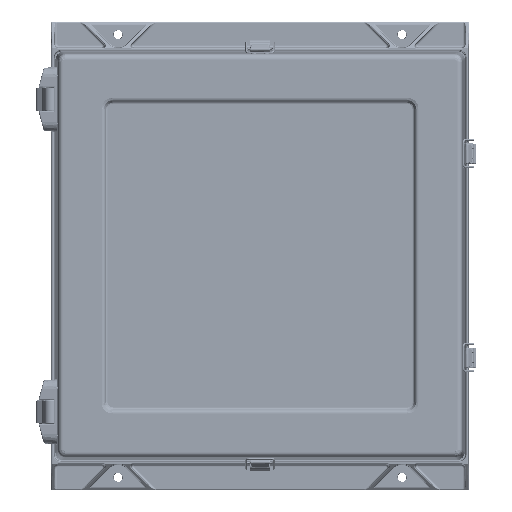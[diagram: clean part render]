
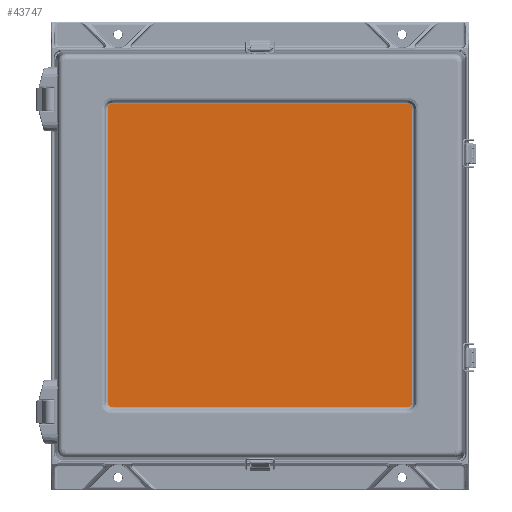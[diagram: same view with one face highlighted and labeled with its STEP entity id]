
A CAD part, top view. The second image highlights one B-rep face of the part: STEP entity #43747.
In plain terms, the highlighted planar face has unit normal (0, 0, 1).
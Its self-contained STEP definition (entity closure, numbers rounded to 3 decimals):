
#15762 = EDGE_CURVE ( 'NONE', #62782, #61933, #57713, .T. ) ;
#15768 = EDGE_CURVE ( 'NONE', #62950, #62782, #55311, .T. ) ;
#15770 = EDGE_CURVE ( 'NONE', #62979, #62933, #55313, .T. ) ;
#15772 = EDGE_CURVE ( 'NONE', #62997, #62979, #57550, .T. ) ;
#15775 = EDGE_CURVE ( 'NONE', #62917, #62997, #55309, .T. ) ;
#15777 = EDGE_CURVE ( 'NONE', #62933, #62950, #57570, .T. ) ;
#15779 = EDGE_CURVE ( 'NONE', #61933, #61936, #55315, .T. ) ;
#15781 = EDGE_CURVE ( 'NONE', #61936, #62917, #57815, .T. ) ;
#19120 = CARTESIAN_POINT ( 'NONE',  ( -7.254, -7.479, 1. ) ) ;
#19127 = CARTESIAN_POINT ( 'NONE',  ( 7.254, -7.479, 1. ) ) ;
#43747 = ADVANCED_FACE ( 'NONE', ( #65842 ), #50021, .T. ) ;
#46821 = CARTESIAN_POINT ( 'NONE',  ( -7.509, -7.224, 1. ) ) ;
#47145 = CARTESIAN_POINT ( 'NONE',  ( 7.509, -7.224, 1. ) ) ;
#47185 = CARTESIAN_POINT ( 'NONE',  ( -7.254, 7.479, 1. ) ) ;
#47229 = CARTESIAN_POINT ( 'NONE',  ( -7.509, 7.224, 1. ) ) ;
#47301 = CARTESIAN_POINT ( 'NONE',  ( 7.254, 7.479, 1. ) ) ;
#47348 = CARTESIAN_POINT ( 'NONE',  ( 7.509, 7.224, 1. ) ) ;
#50021 = PLANE ( 'NONE',  #112347 ) ;
#50024 = CARTESIAN_POINT ( 'NONE',  ( -7.632, -7.602, 1. ) ) ;
#50038 = DIRECTION ( 'NONE',  ( 0., 0., 1. ) ) ;
#50040 = DIRECTION ( 'NONE',  ( 1., 0., 0. ) ) ;
#55309 = LINE ( 'NONE', #90883, #55316 ) ;
#55311 = LINE ( 'NONE', #89535, #55312 ) ;
#55312 = VECTOR ( 'NONE', #91189, 39.37 ) ;
#55313 = LINE ( 'NONE', #90474, #55314 ) ;
#55314 = VECTOR ( 'NONE', #90464, 39.37 ) ;
#55315 = LINE ( 'NONE', #90313, #55317 ) ;
#55316 = VECTOR ( 'NONE', #89690, 39.37 ) ;
#55317 = VECTOR ( 'NONE', #90327, 39.37 ) ;
#57550 =( BOUNDED_CURVE ( )  B_SPLINE_CURVE ( 3, ( #90548, #90343, #90502, #90724 ),
 .UNSPECIFIED., .F., .T. ) 
 B_SPLINE_CURVE_WITH_KNOTS ( ( 4, 4 ),
 ( 2.357, 3.926 ),
 .UNSPECIFIED. ) 
 CURVE ( )  GEOMETRIC_REPRESENTATION_ITEM ( )  RATIONAL_B_SPLINE_CURVE ( ( 1., 0.805, 0.805, 1. ) ) 
 REPRESENTATION_ITEM ( '' )  );
#57570 =( BOUNDED_CURVE ( )  B_SPLINE_CURVE ( 3, ( #89998, #90791, #90134, #90157 ),
 .UNSPECIFIED., .F., .T. ) 
 B_SPLINE_CURVE_WITH_KNOTS ( ( 4, 4 ),
 ( 2.357, 3.926 ),
 .UNSPECIFIED. ) 
 CURVE ( )  GEOMETRIC_REPRESENTATION_ITEM ( )  RATIONAL_B_SPLINE_CURVE ( ( 1., 0.805, 0.805, 1. ) ) 
 REPRESENTATION_ITEM ( '' )  );
#57713 =( BOUNDED_CURVE ( )  B_SPLINE_CURVE ( 3, ( #90279, #90286, #90553, #90550 ),
 .UNSPECIFIED., .F., .T. ) 
 B_SPLINE_CURVE_WITH_KNOTS ( ( 4, 4 ),
 ( 2.357, 3.926 ),
 .UNSPECIFIED. ) 
 CURVE ( )  GEOMETRIC_REPRESENTATION_ITEM ( )  RATIONAL_B_SPLINE_CURVE ( ( 1., 0.805, 0.805, 1. ) ) 
 REPRESENTATION_ITEM ( '' )  );
#57815 =( BOUNDED_CURVE ( )  B_SPLINE_CURVE ( 3, ( #90975, #90154, #90666, #89033 ),
 .UNSPECIFIED., .F., .T. ) 
 B_SPLINE_CURVE_WITH_KNOTS ( ( 4, 4 ),
 ( 2.357, 3.926 ),
 .UNSPECIFIED. ) 
 CURVE ( )  GEOMETRIC_REPRESENTATION_ITEM ( )  RATIONAL_B_SPLINE_CURVE ( ( 1., 0.805, 0.805, 1. ) ) 
 REPRESENTATION_ITEM ( '' )  );
#61933 = VERTEX_POINT ( 'NONE', #19120 ) ;
#61936 = VERTEX_POINT ( 'NONE', #19127 ) ;
#62782 = VERTEX_POINT ( 'NONE', #46821 ) ;
#62917 = VERTEX_POINT ( 'NONE', #47145 ) ;
#62933 = VERTEX_POINT ( 'NONE', #47185 ) ;
#62950 = VERTEX_POINT ( 'NONE', #47229 ) ;
#62979 = VERTEX_POINT ( 'NONE', #47301 ) ;
#62997 = VERTEX_POINT ( 'NONE', #47348 ) ;
#65842 = FACE_OUTER_BOUND ( 'NONE', #101047, .T. ) ;
#68366 = ORIENTED_EDGE ( 'NONE', *, *, #15775, .T. ) ;
#68367 = ORIENTED_EDGE ( 'NONE', *, *, #15772, .T. ) ;
#68368 = ORIENTED_EDGE ( 'NONE', *, *, #15770, .T. ) ;
#68369 = ORIENTED_EDGE ( 'NONE', *, *, #15777, .T. ) ;
#68370 = ORIENTED_EDGE ( 'NONE', *, *, #15768, .T. ) ;
#68371 = ORIENTED_EDGE ( 'NONE', *, *, #15762, .T. ) ;
#68372 = ORIENTED_EDGE ( 'NONE', *, *, #15779, .T. ) ;
#68373 = ORIENTED_EDGE ( 'NONE', *, *, #15781, .T. ) ;
#89033 = CARTESIAN_POINT ( 'NONE',  ( 7.509, -7.224, 1. ) ) ;
#89535 = CARTESIAN_POINT ( 'NONE',  ( -7.509, -7.602, 1. ) ) ;
#89690 = DIRECTION ( 'NONE',  ( 0., 1., 0. ) ) ;
#89998 = CARTESIAN_POINT ( 'NONE',  ( -7.254, 7.479, 1. ) ) ;
#90134 = CARTESIAN_POINT ( 'NONE',  ( -7.509, 7.373, 1. ) ) ;
#90154 = CARTESIAN_POINT ( 'NONE',  ( 7.403, -7.479, 1. ) ) ;
#90157 = CARTESIAN_POINT ( 'NONE',  ( -7.509, 7.224, 1. ) ) ;
#90279 = CARTESIAN_POINT ( 'NONE',  ( -7.509, -7.224, 1. ) ) ;
#90286 = CARTESIAN_POINT ( 'NONE',  ( -7.509, -7.373, 1. ) ) ;
#90313 = CARTESIAN_POINT ( 'NONE',  ( -7.632, -7.479, 1. ) ) ;
#90327 = DIRECTION ( 'NONE',  ( 1., 0., 0. ) ) ;
#90343 = CARTESIAN_POINT ( 'NONE',  ( 7.509, 7.373, 1. ) ) ;
#90464 = DIRECTION ( 'NONE',  ( -1., 0., 0. ) ) ;
#90474 = CARTESIAN_POINT ( 'NONE',  ( -7.632, 7.479, 1. ) ) ;
#90502 = CARTESIAN_POINT ( 'NONE',  ( 7.403, 7.479, 1. ) ) ;
#90548 = CARTESIAN_POINT ( 'NONE',  ( 7.509, 7.224, 1. ) ) ;
#90550 = CARTESIAN_POINT ( 'NONE',  ( -7.254, -7.479, 1. ) ) ;
#90553 = CARTESIAN_POINT ( 'NONE',  ( -7.403, -7.479, 1. ) ) ;
#90666 = CARTESIAN_POINT ( 'NONE',  ( 7.509, -7.373, 1. ) ) ;
#90724 = CARTESIAN_POINT ( 'NONE',  ( 7.254, 7.479, 1. ) ) ;
#90791 = CARTESIAN_POINT ( 'NONE',  ( -7.403, 7.479, 1. ) ) ;
#90883 = CARTESIAN_POINT ( 'NONE',  ( 7.509, -7.602, 1. ) ) ;
#90975 = CARTESIAN_POINT ( 'NONE',  ( 7.254, -7.479, 1. ) ) ;
#91189 = DIRECTION ( 'NONE',  ( 0., -1., 0. ) ) ;
#101047 = EDGE_LOOP ( 'NONE', ( #68366, #68367, #68368, #68369, #68370, #68371, #68372, #68373 ) ) ;
#112347 = AXIS2_PLACEMENT_3D ( 'NONE', #50024, #50038, #50040 ) ;
